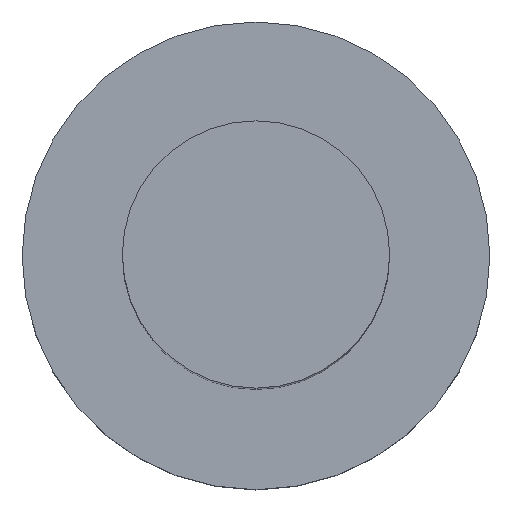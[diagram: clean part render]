
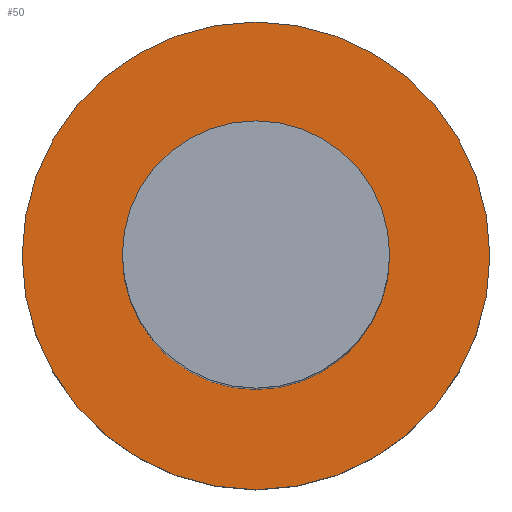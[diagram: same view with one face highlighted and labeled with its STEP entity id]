
A CAD part, top view. The second image highlights one B-rep face of the part: STEP entity #50.
In plain terms, the highlighted planar face has unit normal (0, 0, 1).
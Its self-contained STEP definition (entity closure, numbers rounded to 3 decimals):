
#22 = VERTEX_POINT('',#23);
#23 = CARTESIAN_POINT('',(2.,0.,0.));
#39 = EDGE_CURVE('',#22,#22,#40,.T.);
#40 = CIRCLE('',#41,2.);
#41 = AXIS2_PLACEMENT_3D('',#42,#43,#44);
#42 = CARTESIAN_POINT('',(0.,0.,0.));
#43 = DIRECTION('',(0.,0.,1.));
#44 = DIRECTION('',(1.,0.,0.));
#50 = ADVANCED_FACE('',(#51,#62),#65,.T.);
#51 = FACE_BOUND('',#52,.T.);
#52 = EDGE_LOOP('',(#53));
#53 = ORIENTED_EDGE('',*,*,#54,.T.);
#54 = EDGE_CURVE('',#55,#55,#57,.T.);
#55 = VERTEX_POINT('',#56);
#56 = CARTESIAN_POINT('',(3.5,0.,0.));
#57 = CIRCLE('',#58,3.5);
#58 = AXIS2_PLACEMENT_3D('',#59,#60,#61);
#59 = CARTESIAN_POINT('',(0.,0.,0.));
#60 = DIRECTION('',(0.,0.,1.));
#61 = DIRECTION('',(1.,0.,0.));
#62 = FACE_BOUND('',#63,.T.);
#63 = EDGE_LOOP('',(#64));
#64 = ORIENTED_EDGE('',*,*,#39,.F.);
#65 = PLANE('',#66);
#66 = AXIS2_PLACEMENT_3D('',#67,#68,#69);
#67 = CARTESIAN_POINT('',(0.,0.,0.));
#68 = DIRECTION('',(0.,0.,1.));
#69 = DIRECTION('',(1.,0.,0.));
